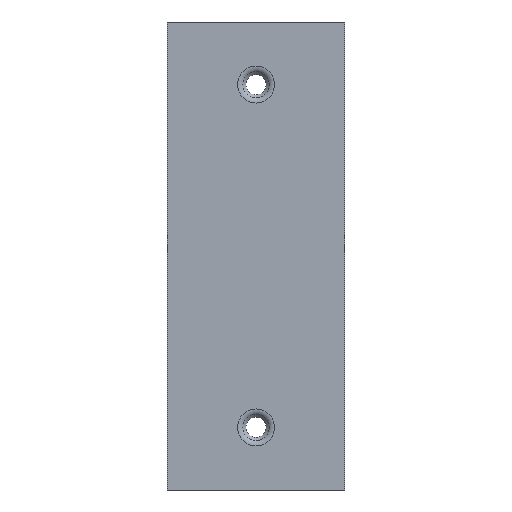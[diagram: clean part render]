
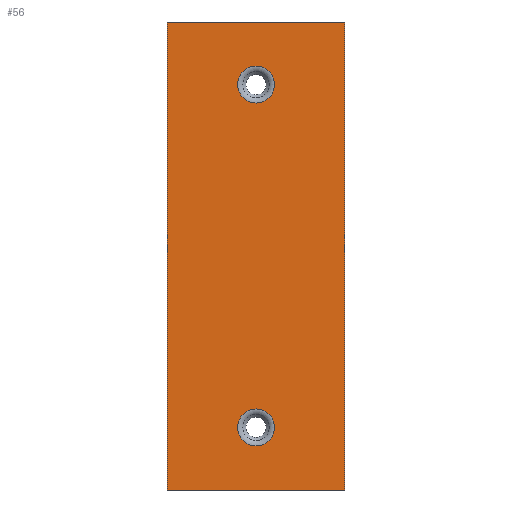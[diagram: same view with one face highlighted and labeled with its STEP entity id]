
A CAD part, left-side view. The second image highlights one B-rep face of the part: STEP entity #56.
In plain terms, the highlighted planar face has unit normal (-1, 0, 0).
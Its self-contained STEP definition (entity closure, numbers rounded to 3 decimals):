
#56 = ADVANCED_FACE( '', ( #137, #138, #139 ), #140, .F. );
#137 = FACE_BOUND( '', #254, .T. );
#138 = FACE_OUTER_BOUND( '', #255, .T. );
#139 = FACE_BOUND( '', #256, .T. );
#140 = PLANE( '', #257 );
#254 = EDGE_LOOP( '', ( #365 ) );
#255 = EDGE_LOOP( '', ( #366, #367, #368, #369 ) );
#256 = EDGE_LOOP( '', ( #370 ) );
#257 = AXIS2_PLACEMENT_3D( '', #371, #372, #373 );
#365 = ORIENTED_EDGE( '', *, *, #637, .T. );
#366 = ORIENTED_EDGE( '', *, *, #638, .T. );
#367 = ORIENTED_EDGE( '', *, *, #639, .T. );
#368 = ORIENTED_EDGE( '', *, *, #640, .F. );
#369 = ORIENTED_EDGE( '', *, *, #641, .F. );
#370 = ORIENTED_EDGE( '', *, *, #642, .T. );
#371 = CARTESIAN_POINT( '', ( 0., 98., 129. ) );
#372 = DIRECTION( '', ( 1., 0., 0. ) );
#373 = DIRECTION( '', ( 0., 0., -1. ) );
#637 = EDGE_CURVE( '', #741, #741, #742, .T. );
#638 = EDGE_CURVE( '', #743, #744, #745, .T. );
#639 = EDGE_CURVE( '', #744, #746, #747, .T. );
#640 = EDGE_CURVE( '', #748, #746, #749, .T. );
#641 = EDGE_CURVE( '', #743, #748, #750, .T. );
#642 = EDGE_CURVE( '', #751, #751, #752, .T. );
#741 = VERTEX_POINT( '', #897 );
#742 = CIRCLE( '', #898, 10.178 );
#743 = VERTEX_POINT( '', #899 );
#744 = VERTEX_POINT( '', #900 );
#745 = LINE( '', #901, #902 );
#746 = VERTEX_POINT( '', #903 );
#747 = LINE( '', #904, #905 );
#748 = VERTEX_POINT( '', #906 );
#749 = LINE( '', #907, #908 );
#750 = LINE( '', #909, #910 );
#751 = VERTEX_POINT( '', #911 );
#752 = CIRCLE( '', #912, 10.178 );
#897 = CARTESIAN_POINT( '', ( 0., 48.979, -104.678 ) );
#898 = AXIS2_PLACEMENT_3D( '', #1112, #1113, #1114 );
#899 = CARTESIAN_POINT( '', ( 0., 98., 129. ) );
#900 = CARTESIAN_POINT( '', ( 0., 98., -129. ) );
#901 = CARTESIAN_POINT( '', ( 0., 98., 129. ) );
#902 = VECTOR( '', #1115, 1000. );
#903 = CARTESIAN_POINT( '', ( 0., 0., -129. ) );
#904 = CARTESIAN_POINT( '', ( 0., 98., -129. ) );
#905 = VECTOR( '', #1116, 1000. );
#906 = CARTESIAN_POINT( '', ( 0., 0., 129. ) );
#907 = CARTESIAN_POINT( '', ( 0., 0., 129. ) );
#908 = VECTOR( '', #1117, 1000. );
#909 = CARTESIAN_POINT( '', ( 0., 98., 129. ) );
#910 = VECTOR( '', #1118, 1000. );
#911 = CARTESIAN_POINT( '', ( 0., 48.979, 84.322 ) );
#912 = AXIS2_PLACEMENT_3D( '', #1119, #1120, #1121 );
#1112 = CARTESIAN_POINT( '', ( 0., 48.979, -94.5 ) );
#1113 = DIRECTION( '', ( 1., 0., 0. ) );
#1114 = DIRECTION( '', ( 0., 0., -1. ) );
#1115 = DIRECTION( '', ( 0., 0., -1. ) );
#1116 = DIRECTION( '', ( 0., -1., 0. ) );
#1117 = DIRECTION( '', ( 0., 0., -1. ) );
#1118 = DIRECTION( '', ( 0., -1., 0. ) );
#1119 = CARTESIAN_POINT( '', ( 0., 48.979, 94.5 ) );
#1120 = DIRECTION( '', ( 1., 0., 0. ) );
#1121 = DIRECTION( '', ( 0., 0., -1. ) );
